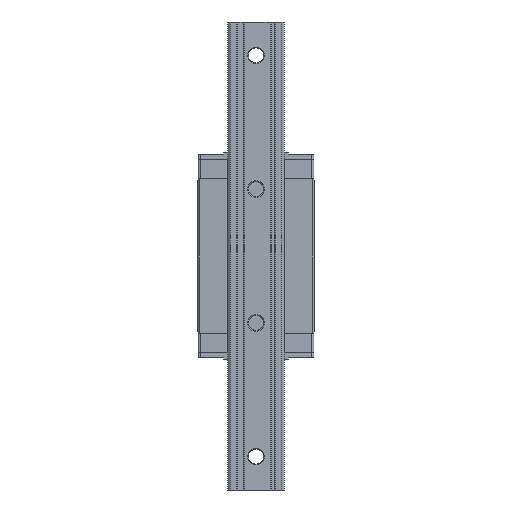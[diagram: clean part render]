
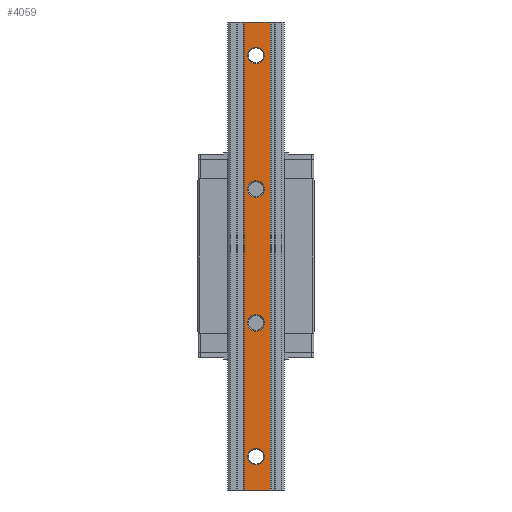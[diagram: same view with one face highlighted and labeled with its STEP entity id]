
A CAD part, front view. The second image highlights one B-rep face of the part: STEP entity #4059.
In plain terms, the highlighted planar face has unit normal (0, -1, 0).
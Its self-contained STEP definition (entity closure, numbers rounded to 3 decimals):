
#216 = EDGE_CURVE ( 'NONE', #1795, #7255, #17916, .T. ) ;
#522 = DIRECTION ( 'NONE',  ( 0., 0., 1. ) ) ;
#799 = VERTEX_POINT ( 'NONE', #14901 ) ;
#824 = VERTEX_POINT ( 'NONE', #11871 ) ;
#901 = DIRECTION ( 'NONE',  ( 0., 0., 1. ) ) ;
#958 = EDGE_CURVE ( 'NONE', #799, #11059, #18274, .T. ) ;
#1026 = CARTESIAN_POINT ( 'NONE',  ( -7., -26., 140. ) ) ;
#1045 = CARTESIAN_POINT ( 'NONE',  ( 0., -26., 45. ) ) ;
#1239 = FACE_BOUND ( 'NONE', #16356, .T. ) ;
#1435 = DIRECTION ( 'NONE',  ( 0., 0., 1. ) ) ;
#1795 = VERTEX_POINT ( 'NONE', #9469 ) ;
#2102 = AXIS2_PLACEMENT_3D ( 'NONE', #9135, #15306, #1435 ) ;
#2683 = DIRECTION ( 'NONE',  ( 1., 0., 0. ) ) ;
#2763 = EDGE_CURVE ( 'NONE', #18817, #5377, #13095, .T. ) ;
#2889 = EDGE_CURVE ( 'NONE', #11965, #7755, #12049, .T. ) ;
#3372 = LINE ( 'NONE', #9530, #5834 ) ;
#3436 = DIRECTION ( 'NONE',  ( 0., 0., 1. ) ) ;
#3468 = DIRECTION ( 'NONE',  ( 0., 0., -1. ) ) ;
#3508 = CARTESIAN_POINT ( 'NONE',  ( 0., -26., -45. ) ) ;
#3529 = ORIENTED_EDGE ( 'NONE', *, *, #2763, .T. ) ;
#3716 = CARTESIAN_POINT ( 'NONE',  ( 0., -26., 35. ) ) ;
#4059 = ADVANCED_FACE ( 'NONE', ( #1239, #19668, #7124, #13945, #5807 ), #4088, .F. ) ;
#4080 = VERTEX_POINT ( 'NONE', #12331 ) ;
#4088 = PLANE ( 'NONE',  #13088 ) ;
#4408 = CARTESIAN_POINT ( 'NONE',  ( -7., -26., -140. ) ) ;
#4722 = DIRECTION ( 'NONE',  ( 1., 0., 0. ) ) ;
#4757 = DIRECTION ( 'NONE',  ( 0., 1., 0. ) ) ;
#5136 = VECTOR ( 'NONE', #2683, 1000. ) ;
#5377 = VERTEX_POINT ( 'NONE', #7710 ) ;
#5484 = CARTESIAN_POINT ( 'NONE',  ( 0., -26., 115. ) ) ;
#5690 = AXIS2_PLACEMENT_3D ( 'NONE', #16874, #9090, #16682 ) ;
#5719 = ORIENTED_EDGE ( 'NONE', *, *, #2889, .T. ) ;
#5771 = EDGE_LOOP ( 'NONE', ( #14992, #12570 ) ) ;
#5807 = FACE_OUTER_BOUND ( 'NONE', #16759, .T. ) ;
#5834 = VECTOR ( 'NONE', #3468, 1000. ) ;
#6148 = VECTOR ( 'NONE', #11959, 1000. ) ;
#6508 = VERTEX_POINT ( 'NONE', #16094 ) ;
#6639 = EDGE_CURVE ( 'NONE', #5377, #18817, #15683, .T. ) ;
#7124 = FACE_BOUND ( 'NONE', #17135, .T. ) ;
#7149 = EDGE_CURVE ( 'NONE', #11059, #799, #14073, .T. ) ;
#7255 = VERTEX_POINT ( 'NONE', #3508 ) ;
#7427 = CARTESIAN_POINT ( 'NONE',  ( -7., -26., 140. ) ) ;
#7710 = CARTESIAN_POINT ( 'NONE',  ( 0., -26., 125. ) ) ;
#7755 = VERTEX_POINT ( 'NONE', #1045 ) ;
#8677 = EDGE_CURVE ( 'NONE', #824, #4080, #12293, .T. ) ;
#9058 = VERTEX_POINT ( 'NONE', #16919 ) ;
#9090 = DIRECTION ( 'NONE',  ( 0., 1., 0. ) ) ;
#9135 = CARTESIAN_POINT ( 'NONE',  ( 0., -26., -120. ) ) ;
#9151 = ORIENTED_EDGE ( 'NONE', *, *, #16346, .T. ) ;
#9201 = AXIS2_PLACEMENT_3D ( 'NONE', #12435, #9591, #3436 ) ;
#9469 = CARTESIAN_POINT ( 'NONE',  ( 0., -26., -35. ) ) ;
#9530 = CARTESIAN_POINT ( 'NONE',  ( 8.5, -26., 140. ) ) ;
#9591 = DIRECTION ( 'NONE',  ( 0., 1., 0. ) ) ;
#10521 = DIRECTION ( 'NONE',  ( 0., 0., 1. ) ) ;
#10552 = ORIENTED_EDGE ( 'NONE', *, *, #216, .T. ) ;
#10816 = CARTESIAN_POINT ( 'NONE',  ( 0., -26., 120. ) ) ;
#11027 = AXIS2_PLACEMENT_3D ( 'NONE', #17600, #15990, #901 ) ;
#11059 = VERTEX_POINT ( 'NONE', #16559 ) ;
#11157 = CARTESIAN_POINT ( 'NONE',  ( 0., -26., -40. ) ) ;
#11500 = ORIENTED_EDGE ( 'NONE', *, *, #20047, .T. ) ;
#11871 = CARTESIAN_POINT ( 'NONE',  ( -7., -26., 140. ) ) ;
#11945 = DIRECTION ( 'NONE',  ( 0., 1., 0. ) ) ;
#11959 = DIRECTION ( 'NONE',  ( 0., 0., -1. ) ) ;
#11965 = VERTEX_POINT ( 'NONE', #3716 ) ;
#12041 = DIRECTION ( 'NONE',  ( 0., 1., 0. ) ) ;
#12049 = CIRCLE ( 'NONE', #17527, 5. ) ;
#12236 = ORIENTED_EDGE ( 'NONE', *, *, #6639, .T. ) ;
#12293 = LINE ( 'NONE', #18564, #17720 ) ;
#12331 = CARTESIAN_POINT ( 'NONE',  ( 8.5, -26., 140. ) ) ;
#12435 = CARTESIAN_POINT ( 'NONE',  ( 0., -26., -40. ) ) ;
#12570 = ORIENTED_EDGE ( 'NONE', *, *, #958, .T. ) ;
#12822 = CARTESIAN_POINT ( 'NONE',  ( 0., -26., 40. ) ) ;
#13088 = AXIS2_PLACEMENT_3D ( 'NONE', #7427, #4757, #13850 ) ;
#13095 = CIRCLE ( 'NONE', #15593, 5. ) ;
#13459 = CARTESIAN_POINT ( 'NONE',  ( 0., -26., 120. ) ) ;
#13850 = DIRECTION ( 'NONE',  ( 0., 0., 1. ) ) ;
#13925 = CIRCLE ( 'NONE', #11027, 5. ) ;
#13945 = FACE_BOUND ( 'NONE', #16589, .T. ) ;
#14073 = CIRCLE ( 'NONE', #5690, 5. ) ;
#14579 = EDGE_CURVE ( 'NONE', #4080, #9058, #3372, .T. ) ;
#14592 = DIRECTION ( 'NONE',  ( 0., 1., 0. ) ) ;
#14901 = CARTESIAN_POINT ( 'NONE',  ( 0., -26., -115. ) ) ;
#14992 = ORIENTED_EDGE ( 'NONE', *, *, #7149, .T. ) ;
#15206 = ORIENTED_EDGE ( 'NONE', *, *, #19938, .T. ) ;
#15306 = DIRECTION ( 'NONE',  ( 0., 1., 0. ) ) ;
#15593 = AXIS2_PLACEMENT_3D ( 'NONE', #10816, #12041, #10521 ) ;
#15683 = CIRCLE ( 'NONE', #18919, 5. ) ;
#15990 = DIRECTION ( 'NONE',  ( 0., 1., 0. ) ) ;
#16094 = CARTESIAN_POINT ( 'NONE',  ( -7., -26., -140. ) ) ;
#16346 = EDGE_CURVE ( 'NONE', #7755, #11965, #13925, .T. ) ;
#16356 = EDGE_LOOP ( 'NONE', ( #15206, #10552 ) ) ;
#16559 = CARTESIAN_POINT ( 'NONE',  ( 0., -26., -125. ) ) ;
#16571 = ORIENTED_EDGE ( 'NONE', *, *, #14579, .F. ) ;
#16589 = EDGE_LOOP ( 'NONE', ( #3529, #12236 ) ) ;
#16682 = DIRECTION ( 'NONE',  ( 0., 0., 1. ) ) ;
#16759 = EDGE_LOOP ( 'NONE', ( #18599, #16571, #19457, #11500 ) ) ;
#16797 = AXIS2_PLACEMENT_3D ( 'NONE', #11157, #14592, #522 ) ;
#16874 = CARTESIAN_POINT ( 'NONE',  ( 0., -26., -120. ) ) ;
#16919 = CARTESIAN_POINT ( 'NONE',  ( 8.5, -26., -140. ) ) ;
#17135 = EDGE_LOOP ( 'NONE', ( #5719, #9151 ) ) ;
#17174 = DIRECTION ( 'NONE',  ( 0., 1., 0. ) ) ;
#17438 = CIRCLE ( 'NONE', #16797, 5. ) ;
#17527 = AXIS2_PLACEMENT_3D ( 'NONE', #12822, #17174, #18904 ) ;
#17600 = CARTESIAN_POINT ( 'NONE',  ( 0., -26., 40. ) ) ;
#17720 = VECTOR ( 'NONE', #4722, 1000. ) ;
#17916 = CIRCLE ( 'NONE', #9201, 5. ) ;
#17954 = LINE ( 'NONE', #4408, #5136 ) ;
#18114 = DIRECTION ( 'NONE',  ( 0., 0., 1. ) ) ;
#18274 = CIRCLE ( 'NONE', #2102, 5. ) ;
#18452 = EDGE_CURVE ( 'NONE', #6508, #9058, #17954, .T. ) ;
#18564 = CARTESIAN_POINT ( 'NONE',  ( -7., -26., 140. ) ) ;
#18599 = ORIENTED_EDGE ( 'NONE', *, *, #18452, .T. ) ;
#18817 = VERTEX_POINT ( 'NONE', #5484 ) ;
#18904 = DIRECTION ( 'NONE',  ( 0., 0., 1. ) ) ;
#18919 = AXIS2_PLACEMENT_3D ( 'NONE', #13459, #11945, #18114 ) ;
#19457 = ORIENTED_EDGE ( 'NONE', *, *, #8677, .F. ) ;
#19668 = FACE_BOUND ( 'NONE', #5771, .T. ) ;
#19755 = LINE ( 'NONE', #1026, #6148 ) ;
#19938 = EDGE_CURVE ( 'NONE', #7255, #1795, #17438, .T. ) ;
#20047 = EDGE_CURVE ( 'NONE', #824, #6508, #19755, .T. ) ;
